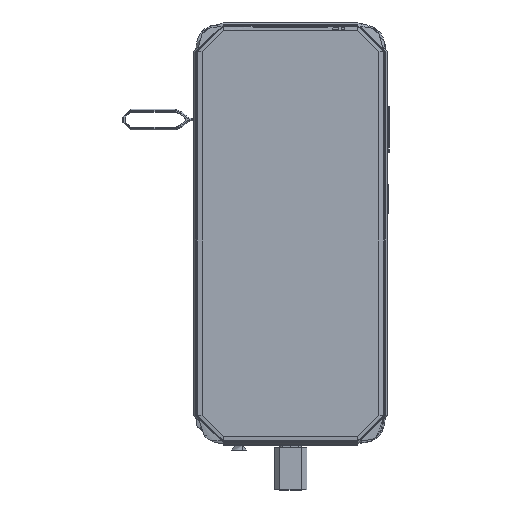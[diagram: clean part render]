
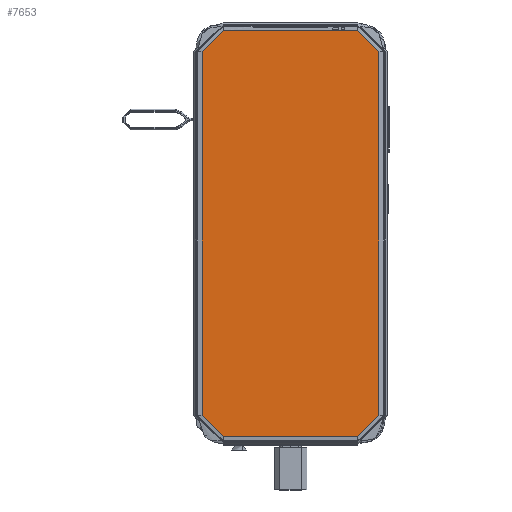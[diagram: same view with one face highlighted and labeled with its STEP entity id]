
A CAD part, top view. The second image highlights one B-rep face of the part: STEP entity #7653.
In plain terms, the highlighted planar face has unit normal (0, 0, 1).
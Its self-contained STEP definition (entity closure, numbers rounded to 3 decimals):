
#7653=ADVANCED_FACE('',(#23179),#251534,.T.);
#23179=FACE_OUTER_BOUND('',#38362,.T.);
#38362=EDGE_LOOP('',(#75320,#75321,#75322,#75323,#75324,#75325,#75326,#75327));
#75320=ORIENTED_EDGE('',*,*,#145588,.T.);
#75321=ORIENTED_EDGE('',*,*,#145595,.T.);
#75322=ORIENTED_EDGE('',*,*,#145594,.T.);
#75323=ORIENTED_EDGE('',*,*,#145593,.T.);
#75324=ORIENTED_EDGE('',*,*,#145592,.T.);
#75325=ORIENTED_EDGE('',*,*,#145591,.T.);
#75326=ORIENTED_EDGE('',*,*,#145590,.T.);
#75327=ORIENTED_EDGE('',*,*,#145589,.T.);
#145588=EDGE_CURVE('',#224857,#224856,#192990,.T.);
#145589=EDGE_CURVE('',#224859,#224857,#192991,.T.);
#145590=EDGE_CURVE('',#224860,#224859,#192992,.T.);
#145591=EDGE_CURVE('',#224861,#224860,#192993,.T.);
#145592=EDGE_CURVE('',#224862,#224861,#192994,.T.);
#145593=EDGE_CURVE('',#224863,#224862,#192995,.T.);
#145594=EDGE_CURVE('',#224858,#224863,#192996,.T.);
#145595=EDGE_CURVE('',#224856,#224858,#192997,.T.);
#192990=B_SPLINE_CURVE_WITH_KNOTS('',1,(#409632,#409633),.UNSPECIFIED.,
 .F.,.F.,(2,2),(-52.34,0.),.UNSPECIFIED.);
#192991=B_SPLINE_CURVE_WITH_KNOTS('',3,(#409634,#409635,#409636,#409637,
#409638,#409639,#409640,#409641,#409642,#409643,#409644,#409645,#409646,
#409647,#409648,#409649,#409650,#409651,#409652),.UNSPECIFIED.,.F.,.F.,
(4,1,1,1,1,1,1,1,1,1,1,1,1,1,1,1,4),(-13.849,-12.984,
-12.118,-11.253,-10.387,-9.521,
-8.656,-7.79,-6.925,-6.059,
-5.193,-4.328,-3.462,-2.597,
-1.731,-0.866,0.),.UNSPECIFIED.);
#192992=B_SPLINE_CURVE_WITH_KNOTS('',1,(#409653,#409654),.UNSPECIFIED.,
 .F.,.F.,(2,2),(-140.99,0.),.UNSPECIFIED.);
#192993=B_SPLINE_CURVE_WITH_KNOTS('',3,(#409655,#409656,#409657,#409658,
#409659,#409660,#409661,#409662,#409663,#409664,#409665,#409666,#409667,
#409668,#409669,#409670,#409671,#409672,#409673),.UNSPECIFIED.,.F.,.F.,
(4,1,1,1,1,1,1,1,1,1,1,1,1,1,1,1,4),(-13.849,-12.984,
-12.118,-11.253,-10.387,-9.521,
-8.656,-7.79,-6.925,-6.059,
-5.193,-4.328,-3.462,-2.597,
-1.731,-0.866,0.),.UNSPECIFIED.);
#192994=B_SPLINE_CURVE_WITH_KNOTS('',1,(#409674,#409675),.UNSPECIFIED.,
 .F.,.F.,(2,2),(-52.34,0.),.UNSPECIFIED.);
#192995=B_SPLINE_CURVE_WITH_KNOTS('',3,(#409676,#409677,#409678,#409679,
#409680,#409681,#409682,#409683,#409684,#409685,#409686,#409687,#409688,
#409689,#409690,#409691,#409692,#409693,#409694),.UNSPECIFIED.,.F.,.F.,
(4,1,1,1,1,1,1,1,1,1,1,1,1,1,1,1,4),(-13.849,-12.984,
-12.118,-11.253,-10.387,-9.521,
-8.656,-7.79,-6.925,-6.059,
-5.193,-4.328,-3.462,-2.597,
-1.731,-0.866,0.),.UNSPECIFIED.);
#192996=B_SPLINE_CURVE_WITH_KNOTS('',1,(#409695,#409696),.UNSPECIFIED.,
 .F.,.F.,(2,2),(-140.99,0.),.UNSPECIFIED.);
#192997=B_SPLINE_CURVE_WITH_KNOTS('',3,(#409697,#409698,#409699,#409700,
#409701,#409702,#409703,#409704,#409705,#409706,#409707,#409708,#409709,
#409710,#409711,#409712,#409713,#409714,#409715),.UNSPECIFIED.,.F.,.F.,
(4,1,1,1,1,1,1,1,1,1,1,1,1,1,1,1,4),(-13.849,-12.984,
-12.118,-11.253,-10.387,-9.521,
-8.656,-7.79,-6.925,-6.059,
-5.193,-4.328,-3.462,-2.597,
-1.731,-0.866,0.),.UNSPECIFIED.);
#224856=VERTEX_POINT('',#408749);
#224857=VERTEX_POINT('',#408750);
#224858=VERTEX_POINT('',#408751);
#224859=VERTEX_POINT('',#408752);
#224860=VERTEX_POINT('',#408753);
#224861=VERTEX_POINT('',#408754);
#224862=VERTEX_POINT('',#408755);
#224863=VERTEX_POINT('',#408756);
#251534=PLANE('',#263833);
#263833=AXIS2_PLACEMENT_3D('',#408228,#273488,$);
#273488=DIRECTION('',(0.,0.,1.));
#408228=CARTESIAN_POINT('',(41.221,-94.176,0.11));
#408749=CARTESIAN_POINT('',(-26.17,78.88,0.11));
#408750=CARTESIAN_POINT('',(26.17,78.88,0.11));
#408751=CARTESIAN_POINT('',(-34.32,70.73,0.11));
#408752=CARTESIAN_POINT('',(34.32,70.73,0.11));
#408753=CARTESIAN_POINT('',(34.32,-70.26,0.11));
#408754=CARTESIAN_POINT('',(26.17,-78.41,0.11));
#408755=CARTESIAN_POINT('',(-26.17,-78.41,0.11));
#408756=CARTESIAN_POINT('',(-34.32,-70.26,0.11));
#409632=CARTESIAN_POINT('',(26.17,78.88,0.11));
#409633=CARTESIAN_POINT('',(-26.17,78.88,0.11));
#409634=CARTESIAN_POINT('',(34.32,70.73,0.11));
#409635=CARTESIAN_POINT('',(34.32,71.025,0.11));
#409636=CARTESIAN_POINT('',(34.321,71.616,0.11));
#409637=CARTESIAN_POINT('',(34.312,72.502,0.11));
#409638=CARTESIAN_POINT('',(34.268,73.385,0.11));
#409639=CARTESIAN_POINT('',(34.16,74.254,0.11));
#409640=CARTESIAN_POINT('',(33.962,75.096,0.11));
#409641=CARTESIAN_POINT('',(33.657,75.891,0.11));
#409642=CARTESIAN_POINT('',(33.235,76.619,0.11));
#409643=CARTESIAN_POINT('',(32.7,77.26,0.11));
#409644=CARTESIAN_POINT('',(32.059,77.795,0.11));
#409645=CARTESIAN_POINT('',(31.331,78.217,0.11));
#409646=CARTESIAN_POINT('',(30.536,78.522,0.11));
#409647=CARTESIAN_POINT('',(29.694,78.72,0.11));
#409648=CARTESIAN_POINT('',(28.825,78.828,0.11));
#409649=CARTESIAN_POINT('',(27.942,78.872,0.11));
#409650=CARTESIAN_POINT('',(27.056,78.881,0.11));
#409651=CARTESIAN_POINT('',(26.465,78.88,0.11));
#409652=CARTESIAN_POINT('',(26.17,78.88,0.11));
#409653=CARTESIAN_POINT('',(34.32,-70.26,0.11));
#409654=CARTESIAN_POINT('',(34.32,70.73,0.11));
#409655=CARTESIAN_POINT('',(26.17,-78.41,0.11));
#409656=CARTESIAN_POINT('',(26.465,-78.41,0.11));
#409657=CARTESIAN_POINT('',(27.056,-78.411,0.11));
#409658=CARTESIAN_POINT('',(27.942,-78.402,0.11));
#409659=CARTESIAN_POINT('',(28.825,-78.358,0.11));
#409660=CARTESIAN_POINT('',(29.694,-78.25,0.11));
#409661=CARTESIAN_POINT('',(30.536,-78.052,0.11));
#409662=CARTESIAN_POINT('',(31.331,-77.747,0.11));
#409663=CARTESIAN_POINT('',(32.059,-77.325,0.11));
#409664=CARTESIAN_POINT('',(32.7,-76.79,0.11));
#409665=CARTESIAN_POINT('',(33.235,-76.149,0.11));
#409666=CARTESIAN_POINT('',(33.657,-75.421,0.11));
#409667=CARTESIAN_POINT('',(33.962,-74.626,0.11));
#409668=CARTESIAN_POINT('',(34.16,-73.784,0.11));
#409669=CARTESIAN_POINT('',(34.268,-72.915,0.11));
#409670=CARTESIAN_POINT('',(34.312,-72.032,0.11));
#409671=CARTESIAN_POINT('',(34.321,-71.146,0.11));
#409672=CARTESIAN_POINT('',(34.32,-70.555,0.11));
#409673=CARTESIAN_POINT('',(34.32,-70.26,0.11));
#409674=CARTESIAN_POINT('',(-26.17,-78.41,0.11));
#409675=CARTESIAN_POINT('',(26.17,-78.41,0.11));
#409676=CARTESIAN_POINT('',(-34.32,-70.26,0.11));
#409677=CARTESIAN_POINT('',(-34.32,-70.555,0.11));
#409678=CARTESIAN_POINT('',(-34.321,-71.146,0.11));
#409679=CARTESIAN_POINT('',(-34.312,-72.032,0.11));
#409680=CARTESIAN_POINT('',(-34.268,-72.915,0.11));
#409681=CARTESIAN_POINT('',(-34.16,-73.784,0.11));
#409682=CARTESIAN_POINT('',(-33.962,-74.626,0.11));
#409683=CARTESIAN_POINT('',(-33.657,-75.421,0.11));
#409684=CARTESIAN_POINT('',(-33.235,-76.149,0.11));
#409685=CARTESIAN_POINT('',(-32.7,-76.79,0.11));
#409686=CARTESIAN_POINT('',(-32.059,-77.325,0.11));
#409687=CARTESIAN_POINT('',(-31.331,-77.747,0.11));
#409688=CARTESIAN_POINT('',(-30.536,-78.052,0.11));
#409689=CARTESIAN_POINT('',(-29.694,-78.25,0.11));
#409690=CARTESIAN_POINT('',(-28.825,-78.358,0.11));
#409691=CARTESIAN_POINT('',(-27.942,-78.402,0.11));
#409692=CARTESIAN_POINT('',(-27.056,-78.411,0.11));
#409693=CARTESIAN_POINT('',(-26.465,-78.41,0.11));
#409694=CARTESIAN_POINT('',(-26.17,-78.41,0.11));
#409695=CARTESIAN_POINT('',(-34.32,70.73,0.11));
#409696=CARTESIAN_POINT('',(-34.32,-70.26,0.11));
#409697=CARTESIAN_POINT('',(-26.17,78.88,0.11));
#409698=CARTESIAN_POINT('',(-26.465,78.88,0.11));
#409699=CARTESIAN_POINT('',(-27.056,78.881,0.11));
#409700=CARTESIAN_POINT('',(-27.942,78.872,0.11));
#409701=CARTESIAN_POINT('',(-28.825,78.828,0.11));
#409702=CARTESIAN_POINT('',(-29.694,78.72,0.11));
#409703=CARTESIAN_POINT('',(-30.536,78.522,0.11));
#409704=CARTESIAN_POINT('',(-31.331,78.217,0.11));
#409705=CARTESIAN_POINT('',(-32.059,77.795,0.11));
#409706=CARTESIAN_POINT('',(-32.7,77.26,0.11));
#409707=CARTESIAN_POINT('',(-33.235,76.619,0.11));
#409708=CARTESIAN_POINT('',(-33.657,75.891,0.11));
#409709=CARTESIAN_POINT('',(-33.962,75.096,0.11));
#409710=CARTESIAN_POINT('',(-34.16,74.254,0.11));
#409711=CARTESIAN_POINT('',(-34.268,73.385,0.11));
#409712=CARTESIAN_POINT('',(-34.312,72.502,0.11));
#409713=CARTESIAN_POINT('',(-34.321,71.616,0.11));
#409714=CARTESIAN_POINT('',(-34.32,71.025,0.11));
#409715=CARTESIAN_POINT('',(-34.32,70.73,0.11));
